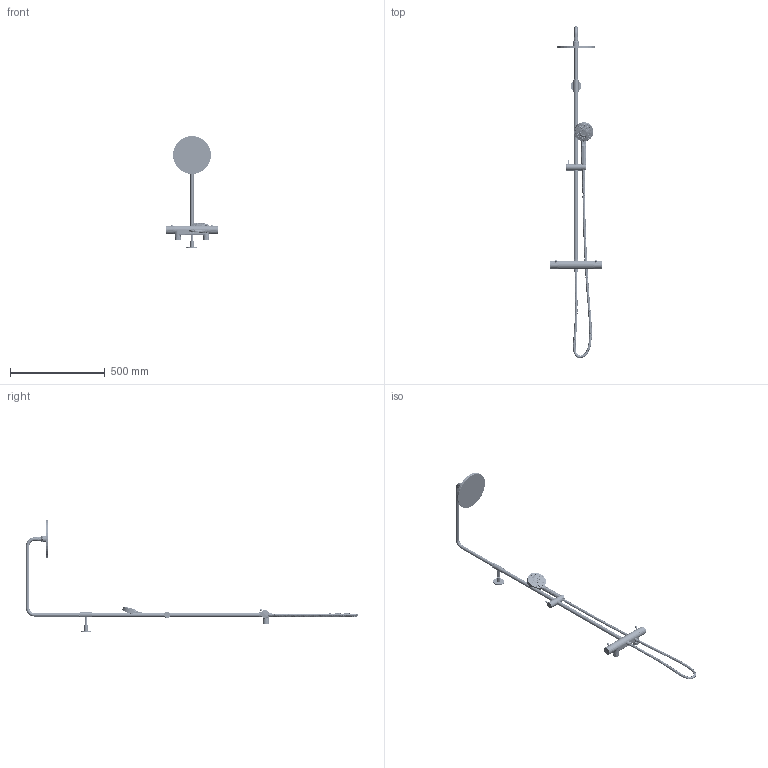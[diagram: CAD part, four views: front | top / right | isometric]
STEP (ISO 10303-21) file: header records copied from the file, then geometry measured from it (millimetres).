
FILE_DESCRIPTION((''),'2;1');
FILE_NAME('57917--_SW0002','2026-10-01T08:51:51',('simi1'),(''),'CREO PARAMETRIC BY PTC INC, 2022244','CREO PARAMETRIC BY PTC INC, 2022244','');
FILE_SCHEMA(('CONFIG_CONTROL_DESIGN'));
Products named in the file (1): 57917--_SW0002
Bounding box: 276.55 x 1750.79 x 590 mm (x, y, z)
Surface area: 474443 mm2 (no closed solid volume)
Topology: 0 solids, 357 shells, 1181 faces, 3969 edges, 2964 vertices
Faces by surface type: plane 324, cylinder 309, bspline 288, cone 144, torus 93, sphere 17, revolution 3, extrusion 3
Entity records: 322747 total; most frequent: CARTESIAN_POINT 293093, ORIENTED_EDGE 5584, DIRECTION 5375, EDGE_CURVE 3955, VERTEX_POINT 2964, AXIS2_PLACEMENT_3D 2232, B_SPLINE_CURVE_WITH_KNOTS 1711, CIRCLE 1345
